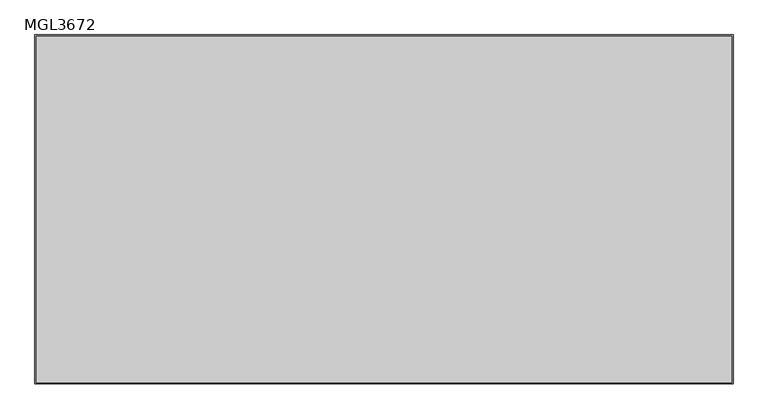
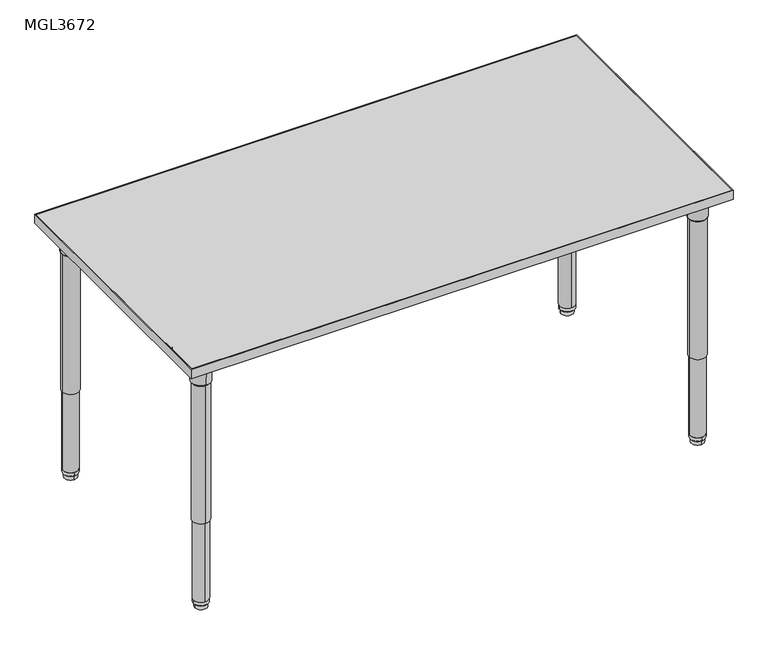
"""IFC4 building model written with IfcOpenShell, lengths in millimetres: furniture geometry, ERG-Mingle-Table-Rectangle : MGL3672."""

from ifc_helpers import new_model, si_unit, point, frame, frame_2d, origin, place, context, project, spatial, polyline, circle_curve, trimmed, segment, composite_curve, outline, extrude, source, transform, mapped, element, save
from ifc_brep_helpers import plane_surface, cylinder_surface, revolved_surface, advanced_brep


def mgl3672_5fbb54ad(model_context):
    return source(origin(), model_context, "Body", "SolidModel", [
        advanced_brep(
        [(808.1646842, -381.0, 802.9933069), (868.2353158, -381.0, 802.9933069), (838.2, -381.0, 802.9933069), (806.056117, -381.0, 806.7580481), (870.343883, -381.0, 806.7580481), (805.1206351, -381.0, 860.1631458), (871.2793649, -381.0, 860.1631458), (801.671083, -381.0, 866.5198315), (874.728917, -381.0, 866.5198315), (801.671083, -381.0, 879.2198315), (874.728917, -381.0, 879.2198315), (838.2, -381.0, 879.2198315)],
        [
            (0, 1, circle_curve(frame((838.2, -381.0, 802.9933069), z_axis=(0.0, 0.0, -1.0), x_axis=(1.0, 0.0, 0.0)), 30.0353158)),
            (1, 2),
            (2, 0),
            (1, 0, circle_curve(frame((838.2, -381.0, 802.9933069), z_axis=(0.0, 0.0, -1.0), x_axis=(1.0, 0.0, 0.0)), 30.0353158)),
            (3, 4, circle_curve(frame((838.2, -381.0, 806.7580481), z_axis=(0.0, 0.0, -1.0), x_axis=(1.0, 0.0, 0.0)), 32.143883)),
            (4, 1),
            (0, 3),
            (4, 3, circle_curve(frame((838.2, -381.0, 806.7580481), z_axis=(0.0, 0.0, -1.0), x_axis=(1.0, 0.0, 0.0)), 32.143883)),
            (5, 6, circle_curve(frame((838.2, -381.0, 860.1631458), z_axis=(0.0, 0.0, -1.0), x_axis=(1.0, 0.0, 0.0)), 33.0793649)),
            (6, 4),
            (3, 5),
            (6, 5, circle_curve(frame((838.2, -381.0, 860.1631458), z_axis=(0.0, 0.0, -1.0), x_axis=(1.0, 0.0, 0.0)), 33.0793649)),
            (7, 8, circle_curve(frame((838.2, -381.0, 866.5198315), z_axis=(0.0, 0.0, -1.0), x_axis=(1.0, 0.0, 0.0)), 36.528917)),
            (8, 6),
            (5, 7),
            (8, 7, circle_curve(frame((838.2, -381.0, 866.5198315), z_axis=(0.0, 0.0, -1.0), x_axis=(1.0, 0.0, 0.0)), 36.528917)),
            (9, 10, circle_curve(frame((838.2, -381.0, 879.2198315), z_axis=(0.0, 0.0, -1.0), x_axis=(1.0, 0.0, 0.0)), 36.528917)),
            (10, 8),
            (7, 9),
            (10, 9, circle_curve(frame((838.2, -381.0, 879.2198315), z_axis=(0.0, 0.0, -1.0), x_axis=(1.0, 0.0, 0.0)), 36.528917)),
            (11, 10),
            (9, 11),
        ],
        [
            plane_surface(frame((838.2, -381.0, 802.9933069), z_axis=(0.0, 0.0, -1.0), x_axis=(1.0, 0.0, 0.0))),
            revolved_surface(polyline([(868.2353158, -381.0, 802.9933069), (870.343883, -381.0, 806.7580481)]), (838.2, -381.0, 879.2198315), (0.0, 0.0, 1.0)),
            revolved_surface(polyline([(870.343883, -381.0, 806.7580481), (871.2793649, -381.0, 860.1631458)]), (838.2, -381.0, 879.2198315), (0.0, 0.0, 1.0)),
            revolved_surface(polyline([(871.2793649, -381.0, 860.1631458), (874.728917, -381.0, 866.5198315)]), (838.2, -381.0, 879.2198315), (0.0, 0.0, 1.0)),
            cylinder_surface(frame((838.2, -381.0, 879.2198315), z_axis=(0.0, 0.0, 1.0), x_axis=(1.0, 0.0, 0.0)), 36.528917),
            plane_surface(frame((838.2, -381.0, 879.2198315), z_axis=(0.0, 0.0, 1.0), x_axis=(1.0, 0.0, 0.0))),
        ],
        [
            (0, [[1, 2, 3]]),
            (0, [[4, -3, -2]]),
            (1, [[5, 6, -1, 7]]),
            (1, [[8, -7, -4, -6]]),
            (2, [[9, 10, -5, 11]]),
            (2, [[12, -11, -8, -10]]),
            (3, [[13, 14, -9, 15]]),
            (3, [[16, -15, -12, -14]]),
            (4, [[17, 18, -13, 19]]),
            (4, [[20, -19, -16, -18]]),
            (5, [[21, -17, 22]]),
            (5, [[-22, -20, -21]]),
        ],
    ),
        extrude(outline(composite_curve([segment(polyline([(884.073768, -298.4223426), (884.073768, -412.1483754)]), True, "CONTINUOUS"), segment(trimmed(circle_curve(frame_2d((868.198768, -412.1483754)), 15.875), [point((884.073768, -412.1483754))], [point((868.198768, -428.0233754))], False, "CARTESIAN"), True, "CONTINUOUS"), segment(polyline([(868.198768, -428.0233754), (754.4864205, -428.0233754)]), True, "CONTINUOUS"), segment(trimmed(circle_curve(frame_2d((754.4864205, -415.3233754)), 12.7), [point((754.4864205, -428.0233754))], [point((741.8491923, -414.0622394))], False, "CARTESIAN"), True, "CONTINUOUS"), segment(trimmed(circle_curve(frame_2d((884.3486077, -428.2830117)), 143.2072406), [point((741.8491923, -414.0622394))], [point((870.1111525, -285.7852622))], False, "CARTESIAN"), True, "CONTINUOUS"), segment(trimmed(circle_curve(frame_2d((871.373768, -298.4223426)), 12.7), [point((870.1111525, -285.7852622))], [point((884.073768, -298.4223426))], False, "CARTESIAN"), True, "CONTINUOUS")], self_intersect=False)), frame((0.0, 0.0, 879.2198315), z_axis=(0.0, 0.0, 1.0), x_axis=(1.0, 0.0, 0.0)), (0.0, 0.0, 1.0), 3.4301685),
        extrude(outline(composite_curve([segment(trimmed(circle_curve(frame_2d((838.2, -381.0)), 28.575), [point((866.775, -381.0))], [point((809.625, -381.0))], False, "CARTESIAN"), True, "CONTINUOUS"), segment(trimmed(circle_curve(frame_2d((838.2, -381.0)), 28.575), [point((809.625, -381.0))], [point((866.775, -381.0))], False, "CARTESIAN"), True, "CONTINUOUS")], self_intersect=False)), frame((0.0, 0.0, 310.7876979), z_axis=(0.0, 0.0, 1.0), x_axis=(1.0, 0.0, 0.0)), (0.0, 0.0, 1.0), 495.4089866),
        extrude(outline(composite_curve([segment(trimmed(circle_curve(frame_2d((838.2, -381.0)), 25.4), [point((863.6, -381.0))], [point((812.8, -381.0))], False, "CARTESIAN"), True, "CONTINUOUS"), segment(trimmed(circle_curve(frame_2d((838.2, -381.0)), 25.4), [point((812.8, -381.0))], [point((863.6, -381.0))], False, "CARTESIAN"), True, "CONTINUOUS")], self_intersect=False)), frame((0.0, 0.0, 28.9580435), z_axis=(0.0, 0.0, 1.0), x_axis=(1.0, 0.0, 0.0)), (0.0, 0.0, 1.0), 329.1049119),
        advanced_brep(
        [(838.2, -355.7649896, 28.9580185), (838.2, -406.2350104, 28.9580185), (838.2, -381.0, 28.9580185), (838.2, -355.900761, 16.3032949), (838.2, -406.099239, 16.3032949), (838.2, -357.4160619, 14.7291007), (838.2, -404.5839381, 14.7291007), (838.2, -359.8591422, 14.7291007), (838.2, -402.1408578, 14.7291007), (838.2, -360.0521336, 0.0), (838.2, -401.9478664, 0.0), (838.2, -381.0, 0.0)],
        [
            (0, 1, circle_curve(frame((838.2, -381.0, 28.9580185), z_axis=(0.0, 0.0, 1.0), x_axis=(0.0, -1.0, 0.0)), 25.2350104)),
            (1, 2),
            (2, 0),
            (1, 0, circle_curve(frame((838.2, -381.0, 28.9580185), z_axis=(0.0, 0.0, 1.0), x_axis=(0.0, -1.0, 0.0)), 25.2350104)),
            (3, 4, circle_curve(frame((838.2, -381.0, 16.3032949), z_axis=(0.0, 0.0, 1.0), x_axis=(0.0, -1.0, 0.0)), 25.099239)),
            (4, 1),
            (0, 3),
            (4, 3, circle_curve(frame((838.2, -381.0, 16.3032949), z_axis=(0.0, 0.0, 1.0), x_axis=(0.0, -1.0, 0.0)), 25.099239)),
            (5, 6, circle_curve(frame((838.2, -381.0, 14.7291007), z_axis=(0.0, 0.0, 1.0), x_axis=(0.0, -1.0, 0.0)), 23.5839381)),
            (6, 4),
            (3, 5),
            (6, 5, circle_curve(frame((838.2, -381.0, 14.7291007), z_axis=(0.0, 0.0, 1.0), x_axis=(0.0, -1.0, 0.0)), 23.5839381)),
            (7, 8, circle_curve(frame((838.2, -381.0, 14.7291007), z_axis=(0.0, 0.0, 1.0), x_axis=(0.0, -1.0, 0.0)), 21.1408578)),
            (8, 6),
            (5, 7),
            (8, 7, circle_curve(frame((838.2, -381.0, 14.7291007), z_axis=(0.0, 0.0, 1.0), x_axis=(0.0, -1.0, 0.0)), 21.1408578)),
            (9, 10, circle_curve(frame((838.2, -381.0, 0.0), z_axis=(0.0, 0.0, 1.0), x_axis=(0.0, -1.0, 0.0)), 20.9478664)),
            (10, 8),
            (7, 9),
            (10, 9, circle_curve(frame((838.2, -381.0, 0.0), z_axis=(0.0, 0.0, 1.0), x_axis=(0.0, -1.0, 0.0)), 20.9478664)),
            (11, 10),
            (9, 11),
        ],
        [
            plane_surface(frame((838.2, -381.0, 28.9580185), z_axis=(0.0, 0.0, 1.0), x_axis=(0.0, -1.0, 0.0))),
            revolved_surface(polyline([(838.2, -406.2350104, 28.9580185), (838.2, -406.099239, 16.3032949)]), (838.2, -381.0, 0.0), (0.0, 0.0, -1.0)),
            revolved_surface(polyline([(838.2, -406.099239, 16.3032949), (838.2, -404.5839381, 14.7291007)]), (838.2, -381.0, 0.0), (0.0, 0.0, -1.0)),
            plane_surface(frame((838.2, -381.0, 14.7291007), z_axis=(0.0, 0.0, -1.0), x_axis=(0.0, -1.0, 0.0))),
            revolved_surface(polyline([(838.2, -402.1408578, 14.7291007), (838.2, -401.9478664, 0.0)]), (838.2, -381.0, 0.0), (0.0, 0.0, -1.0)),
            plane_surface(frame((838.2, -381.0, 0.0), z_axis=(0.0, 0.0, -1.0), x_axis=(0.0, -1.0, 0.0))),
        ],
        [
            (0, [[1, 2, 3]]),
            (0, [[4, -3, -2]]),
            (1, [[5, 6, -1, 7]]),
            (1, [[8, -7, -4, -6]]),
            (2, [[9, 10, -5, 11]]),
            (2, [[12, -11, -8, -10]]),
            (3, [[13, 14, -9, 15]]),
            (3, [[16, -15, -12, -14]]),
            (4, [[17, 18, -13, 19]]),
            (4, [[20, -19, -16, -18]]),
            (5, [[21, -17, 22]]),
            (5, [[-22, -20, -21]]),
        ],
    ),
        advanced_brep(
        [(-838.2, -350.9646842, 802.9933069), (-838.2, -411.0353158, 802.9933069), (-838.2, -381.0, 802.9933069), (-838.2, -348.856117, 806.7580481), (-838.2, -413.143883, 806.7580481), (-838.2, -347.9206351, 860.1631458), (-838.2, -414.0793649, 860.1631458), (-838.2, -344.471083, 866.5198315), (-838.2, -417.528917, 866.5198315), (-838.2, -344.471083, 879.2198315), (-838.2, -417.528917, 879.2198315), (-838.2, -381.0, 879.2198315)],
        [
            (0, 1, circle_curve(frame((-838.2, -381.0, 802.9933069), z_axis=(0.0, 0.0, -1.0), x_axis=(0.0, -1.0, 0.0)), 30.0353158)),
            (1, 2),
            (2, 0),
            (1, 0, circle_curve(frame((-838.2, -381.0, 802.9933069), z_axis=(0.0, 0.0, -1.0), x_axis=(0.0, -1.0, 0.0)), 30.0353158)),
            (3, 4, circle_curve(frame((-838.2, -381.0, 806.7580481), z_axis=(0.0, 0.0, -1.0), x_axis=(0.0, -1.0, 0.0)), 32.143883)),
            (4, 1),
            (0, 3),
            (4, 3, circle_curve(frame((-838.2, -381.0, 806.7580481), z_axis=(0.0, 0.0, -1.0), x_axis=(0.0, -1.0, 0.0)), 32.143883)),
            (5, 6, circle_curve(frame((-838.2, -381.0, 860.1631458), z_axis=(0.0, 0.0, -1.0), x_axis=(0.0, -1.0, 0.0)), 33.0793649)),
            (6, 4),
            (3, 5),
            (6, 5, circle_curve(frame((-838.2, -381.0, 860.1631458), z_axis=(0.0, 0.0, -1.0), x_axis=(0.0, -1.0, 0.0)), 33.0793649)),
            (7, 8, circle_curve(frame((-838.2, -381.0, 866.5198315), z_axis=(0.0, 0.0, -1.0), x_axis=(0.0, -1.0, 0.0)), 36.528917)),
            (8, 6),
            (5, 7),
            (8, 7, circle_curve(frame((-838.2, -381.0, 866.5198315), z_axis=(0.0, 0.0, -1.0), x_axis=(0.0, -1.0, 0.0)), 36.528917)),
            (9, 10, circle_curve(frame((-838.2, -381.0, 879.2198315), z_axis=(0.0, 0.0, -1.0), x_axis=(0.0, -1.0, 0.0)), 36.528917)),
            (10, 8),
            (7, 9),
            (10, 9, circle_curve(frame((-838.2, -381.0, 879.2198315), z_axis=(0.0, 0.0, -1.0), x_axis=(0.0, -1.0, 0.0)), 36.528917)),
            (11, 10),
            (9, 11),
        ],
        [
            plane_surface(frame((-838.2, -381.0, 802.9933069), z_axis=(0.0, 0.0, -1.0), x_axis=(0.0, -1.0, 0.0))),
            revolved_surface(polyline([(-838.2, -411.0353158, 802.9933069), (-838.2, -413.143883, 806.7580481)]), (-838.2, -381.0, 879.2198315), (0.0, 0.0, 1.0)),
            revolved_surface(polyline([(-838.2, -413.143883, 806.7580481), (-838.2, -414.0793649, 860.1631458)]), (-838.2, -381.0, 879.2198315), (0.0, 0.0, 1.0)),
            revolved_surface(polyline([(-838.2, -414.0793649, 860.1631458), (-838.2, -417.528917, 866.5198315)]), (-838.2, -381.0, 879.2198315), (0.0, 0.0, 1.0)),
            cylinder_surface(frame((-838.2, -381.0, 879.2198315), z_axis=(0.0, 0.0, 1.0), x_axis=(0.0, -1.0, 0.0)), 36.528917),
            plane_surface(frame((-838.2, -381.0, 879.2198315), z_axis=(0.0, 0.0, 1.0), x_axis=(0.0, -1.0, 0.0))),
        ],
        [
            (0, [[1, 2, 3]]),
            (0, [[4, -3, -2]]),
            (1, [[5, 6, -1, 7]]),
            (1, [[8, -7, -4, -6]]),
            (2, [[9, 10, -5, 11]]),
            (2, [[12, -11, -8, -10]]),
            (3, [[13, 14, -9, 15]]),
            (3, [[16, -15, -12, -14]]),
            (4, [[17, 18, -13, 19]]),
            (4, [[20, -19, -16, -18]]),
            (5, [[21, -17, 22]]),
            (5, [[-22, -20, -21]]),
        ],
    ),
        extrude(outline(composite_curve([segment(polyline([(-755.6223426, -426.873768), (-869.3483754, -426.873768)]), True, "CONTINUOUS"), segment(trimmed(circle_curve(frame_2d((-869.3483754, -410.998768)), 15.875), [point((-869.3483754, -426.873768))], [point((-885.2233754, -410.998768))], False, "CARTESIAN"), True, "CONTINUOUS"), segment(polyline([(-885.2233754, -410.998768), (-885.2233754, -297.2864205)]), True, "CONTINUOUS"), segment(trimmed(circle_curve(frame_2d((-872.5233754, -297.2864205)), 12.7), [point((-885.2233754, -297.2864205))], [point((-871.2622394, -284.6491923))], False, "CARTESIAN"), True, "CONTINUOUS"), segment(trimmed(circle_curve(frame_2d((-885.4830117, -427.1486077)), 143.2072406), [point((-871.2622394, -284.6491923))], [point((-742.9852622, -412.9111525))], False, "CARTESIAN"), True, "CONTINUOUS"), segment(trimmed(circle_curve(frame_2d((-755.6223426, -414.173768)), 12.7), [point((-742.9852622, -412.9111525))], [point((-755.6223426, -426.873768))], False, "CARTESIAN"), True, "CONTINUOUS")], self_intersect=False)), frame((0.0, 0.0, 879.2198315), z_axis=(0.0, 0.0, 1.0), x_axis=(1.0, 0.0, 0.0)), (0.0, 0.0, 1.0), 3.4301685),
        extrude(outline(composite_curve([segment(trimmed(circle_curve(frame_2d((-838.2, -381.0)), 28.575), [point((-838.2, -409.575))], [point((-838.2, -352.425))], False, "CARTESIAN"), True, "CONTINUOUS"), segment(trimmed(circle_curve(frame_2d((-838.2, -381.0)), 28.575), [point((-838.2, -352.425))], [point((-838.2, -409.575))], False, "CARTESIAN"), True, "CONTINUOUS")], self_intersect=False)), frame((0.0, 0.0, 310.7876979), z_axis=(0.0, 0.0, 1.0), x_axis=(1.0, 0.0, 0.0)), (0.0, 0.0, 1.0), 495.4089866),
        extrude(outline(composite_curve([segment(trimmed(circle_curve(frame_2d((-838.2, -381.0)), 25.4), [point((-838.2, -406.4))], [point((-838.2, -355.6))], False, "CARTESIAN"), True, "CONTINUOUS"), segment(trimmed(circle_curve(frame_2d((-838.2, -381.0)), 25.4), [point((-838.2, -355.6))], [point((-838.2, -406.4))], False, "CARTESIAN"), True, "CONTINUOUS")], self_intersect=False)), frame((0.0, 0.0, 28.9580435), z_axis=(0.0, 0.0, 1.0), x_axis=(1.0, 0.0, 0.0)), (0.0, 0.0, 1.0), 329.1049119),
        advanced_brep(
        [(-812.9649896, -381.0, 28.9580185), (-863.4350104, -381.0, 28.9580185), (-838.2, -381.0, 28.9580185), (-813.100761, -381.0, 16.3032949), (-863.299239, -381.0, 16.3032949), (-814.6160619, -381.0, 14.7291007), (-861.7839381, -381.0, 14.7291007), (-817.0591422, -381.0, 14.7291007), (-859.3408578, -381.0, 14.7291007), (-817.2521336, -381.0, 0.0), (-859.1478664, -381.0, 0.0), (-838.2, -381.0, 0.0)],
        [
            (0, 1, circle_curve(frame((-838.2, -381.0, 28.9580185), z_axis=(0.0, 0.0, 1.0), x_axis=(-1.0, 0.0, 0.0)), 25.2350104)),
            (1, 2),
            (2, 0),
            (1, 0, circle_curve(frame((-838.2, -381.0, 28.9580185), z_axis=(0.0, 0.0, 1.0), x_axis=(-1.0, 0.0, 0.0)), 25.2350104)),
            (3, 4, circle_curve(frame((-838.2, -381.0, 16.3032949), z_axis=(0.0, 0.0, 1.0), x_axis=(-1.0, 0.0, 0.0)), 25.099239)),
            (4, 1),
            (0, 3),
            (4, 3, circle_curve(frame((-838.2, -381.0, 16.3032949), z_axis=(0.0, 0.0, 1.0), x_axis=(-1.0, 0.0, 0.0)), 25.099239)),
            (5, 6, circle_curve(frame((-838.2, -381.0, 14.7291007), z_axis=(0.0, 0.0, 1.0), x_axis=(-1.0, 0.0, 0.0)), 23.5839381)),
            (6, 4),
            (3, 5),
            (6, 5, circle_curve(frame((-838.2, -381.0, 14.7291007), z_axis=(0.0, 0.0, 1.0), x_axis=(-1.0, 0.0, 0.0)), 23.5839381)),
            (7, 8, circle_curve(frame((-838.2, -381.0, 14.7291007), z_axis=(0.0, 0.0, 1.0), x_axis=(-1.0, 0.0, 0.0)), 21.1408578)),
            (8, 6),
            (5, 7),
            (8, 7, circle_curve(frame((-838.2, -381.0, 14.7291007), z_axis=(0.0, 0.0, 1.0), x_axis=(-1.0, 0.0, 0.0)), 21.1408578)),
            (9, 10, circle_curve(frame((-838.2, -381.0, 0.0), z_axis=(0.0, 0.0, 1.0), x_axis=(-1.0, 0.0, 0.0)), 20.9478664)),
            (10, 8),
            (7, 9),
            (10, 9, circle_curve(frame((-838.2, -381.0, 0.0), z_axis=(0.0, 0.0, 1.0), x_axis=(-1.0, 0.0, 0.0)), 20.9478664)),
            (11, 10),
            (9, 11),
        ],
        [
            plane_surface(frame((-838.2, -381.0, 28.9580185), z_axis=(0.0, 0.0, 1.0), x_axis=(-1.0, 0.0, 0.0))),
            revolved_surface(polyline([(-863.4350104, -381.0, 28.9580185), (-863.299239, -381.0, 16.3032949)]), (-838.2, -381.0, 0.0), (0.0, 0.0, -1.0)),
            revolved_surface(polyline([(-863.299239, -381.0, 16.3032949), (-861.7839381, -381.0, 14.7291007)]), (-838.2, -381.0, 0.0), (0.0, 0.0, -1.0)),
            plane_surface(frame((-838.2, -381.0, 14.7291007), z_axis=(0.0, 0.0, -1.0), x_axis=(-1.0, 0.0, 0.0))),
            revolved_surface(polyline([(-859.3408578, -381.0, 14.7291007), (-859.1478664, -381.0, 0.0)]), (-838.2, -381.0, 0.0), (0.0, 0.0, -1.0)),
            plane_surface(frame((-838.2, -381.0, 0.0), z_axis=(0.0, 0.0, -1.0), x_axis=(-1.0, 0.0, 0.0))),
        ],
        [
            (0, [[1, 2, 3]]),
            (0, [[4, -3, -2]]),
            (1, [[5, 6, -1, 7]]),
            (1, [[8, -7, -4, -6]]),
            (2, [[9, 10, -5, 11]]),
            (2, [[12, -11, -8, -10]]),
            (3, [[13, 14, -9, 15]]),
            (3, [[16, -15, -12, -14]]),
            (4, [[17, 18, -13, 19]]),
            (4, [[20, -19, -16, -18]]),
            (5, [[21, -17, 22]]),
            (5, [[-22, -20, -21]]),
        ],
    ),
        advanced_brep(
        [(838.2, 350.9646842, 802.9933069), (838.2, 411.0353158, 802.9933069), (838.2, 381.0, 802.9933069), (838.2, 348.856117, 806.7580481), (838.2, 413.143883, 806.7580481), (838.2, 347.9206351, 860.1631458), (838.2, 414.0793649, 860.1631458), (838.2, 344.471083, 866.5198315), (838.2, 417.528917, 866.5198315), (838.2, 344.471083, 879.2198315), (838.2, 417.528917, 879.2198315), (838.2, 381.0, 879.2198315)],
        [
            (0, 1, circle_curve(frame((838.2, 381.0, 802.9933069), z_axis=(0.0, 0.0, -1.0), x_axis=(0.0, 1.0, 0.0)), 30.0353158)),
            (1, 2),
            (2, 0),
            (1, 0, circle_curve(frame((838.2, 381.0, 802.9933069), z_axis=(0.0, 0.0, -1.0), x_axis=(0.0, 1.0, 0.0)), 30.0353158)),
            (3, 4, circle_curve(frame((838.2, 381.0, 806.7580481), z_axis=(0.0, 0.0, -1.0), x_axis=(0.0, 1.0, 0.0)), 32.143883)),
            (4, 1),
            (0, 3),
            (4, 3, circle_curve(frame((838.2, 381.0, 806.7580481), z_axis=(0.0, 0.0, -1.0), x_axis=(0.0, 1.0, 0.0)), 32.143883)),
            (5, 6, circle_curve(frame((838.2, 381.0, 860.1631458), z_axis=(0.0, 0.0, -1.0), x_axis=(0.0, 1.0, 0.0)), 33.0793649)),
            (6, 4),
            (3, 5),
            (6, 5, circle_curve(frame((838.2, 381.0, 860.1631458), z_axis=(0.0, 0.0, -1.0), x_axis=(0.0, 1.0, 0.0)), 33.0793649)),
            (7, 8, circle_curve(frame((838.2, 381.0, 866.5198315), z_axis=(0.0, 0.0, -1.0), x_axis=(0.0, 1.0, 0.0)), 36.528917)),
            (8, 6),
            (5, 7),
            (8, 7, circle_curve(frame((838.2, 381.0, 866.5198315), z_axis=(0.0, 0.0, -1.0), x_axis=(0.0, 1.0, 0.0)), 36.528917)),
            (9, 10, circle_curve(frame((838.2, 381.0, 879.2198315), z_axis=(0.0, 0.0, -1.0), x_axis=(0.0, 1.0, 0.0)), 36.528917)),
            (10, 8),
            (7, 9),
            (10, 9, circle_curve(frame((838.2, 381.0, 879.2198315), z_axis=(0.0, 0.0, -1.0), x_axis=(0.0, 1.0, 0.0)), 36.528917)),
            (11, 10),
            (9, 11),
        ],
        [
            plane_surface(frame((838.2, 381.0, 802.9933069), z_axis=(0.0, 0.0, -1.0), x_axis=(0.0, 1.0, 0.0))),
            revolved_surface(polyline([(838.2, 411.0353158, 802.9933069), (838.2, 413.143883, 806.7580481)]), (838.2, 381.0, 879.2198315), (0.0, 0.0, 1.0)),
            revolved_surface(polyline([(838.2, 413.143883, 806.7580481), (838.2, 414.0793649, 860.1631458)]), (838.2, 381.0, 879.2198315), (0.0, 0.0, 1.0)),
            revolved_surface(polyline([(838.2, 414.0793649, 860.1631458), (838.2, 417.528917, 866.5198315)]), (838.2, 381.0, 879.2198315), (0.0, 0.0, 1.0)),
            cylinder_surface(frame((838.2, 381.0, 879.2198315), z_axis=(0.0, 0.0, 1.0), x_axis=(0.0, 1.0, 0.0)), 36.528917),
            plane_surface(frame((838.2, 381.0, 879.2198315), z_axis=(0.0, 0.0, 1.0), x_axis=(0.0, 1.0, 0.0))),
        ],
        [
            (0, [[1, 2, 3]]),
            (0, [[4, -3, -2]]),
            (1, [[5, 6, -1, 7]]),
            (1, [[8, -7, -4, -6]]),
            (2, [[9, 10, -5, 11]]),
            (2, [[12, -11, -8, -10]]),
            (3, [[13, 14, -9, 15]]),
            (3, [[16, -15, -12, -14]]),
            (4, [[17, 18, -13, 19]]),
            (4, [[20, -19, -16, -18]]),
            (5, [[21, -17, 22]]),
            (5, [[-22, -20, -21]]),
        ],
    ),
        extrude(outline(composite_curve([segment(polyline([(755.6223426, 426.873768), (869.3483754, 426.873768)]), True, "CONTINUOUS"), segment(trimmed(circle_curve(frame_2d((869.3483754, 410.998768)), 15.875), [point((869.3483754, 426.873768))], [point((885.2233754, 410.998768))], False, "CARTESIAN"), True, "CONTINUOUS"), segment(polyline([(885.2233754, 410.998768), (885.2233754, 297.2864205)]), True, "CONTINUOUS"), segment(trimmed(circle_curve(frame_2d((872.5233754, 297.2864205)), 12.7), [point((885.2233754, 297.2864205))], [point((871.2622394, 284.6491923))], False, "CARTESIAN"), True, "CONTINUOUS"), segment(trimmed(circle_curve(frame_2d((885.4830117, 427.1486077)), 143.2072406), [point((871.2622394, 284.6491923))], [point((742.9852622, 412.9111525))], False, "CARTESIAN"), True, "CONTINUOUS"), segment(trimmed(circle_curve(frame_2d((755.6223426, 414.173768)), 12.7), [point((742.9852622, 412.9111525))], [point((755.6223426, 426.873768))], False, "CARTESIAN"), True, "CONTINUOUS")], self_intersect=False)), frame((0.0, 0.0, 879.2198315), z_axis=(0.0, 0.0, 1.0), x_axis=(1.0, 0.0, 0.0)), (0.0, 0.0, 1.0), 3.4301685),
        extrude(outline(composite_curve([segment(trimmed(circle_curve(frame_2d((838.2, 381.0)), 28.575), [point((838.2, 409.575))], [point((838.2, 352.425))], False, "CARTESIAN"), True, "CONTINUOUS"), segment(trimmed(circle_curve(frame_2d((838.2, 381.0)), 28.575), [point((838.2, 352.425))], [point((838.2, 409.575))], False, "CARTESIAN"), True, "CONTINUOUS")], self_intersect=False)), frame((0.0, 0.0, 310.7876979), z_axis=(0.0, 0.0, 1.0), x_axis=(1.0, 0.0, 0.0)), (0.0, 0.0, 1.0), 495.4089866),
        extrude(outline(composite_curve([segment(trimmed(circle_curve(frame_2d((838.2, 381.0)), 25.4), [point((838.2, 406.4))], [point((838.2, 355.6))], False, "CARTESIAN"), True, "CONTINUOUS"), segment(trimmed(circle_curve(frame_2d((838.2, 381.0)), 25.4), [point((838.2, 355.6))], [point((838.2, 406.4))], False, "CARTESIAN"), True, "CONTINUOUS")], self_intersect=False)), frame((0.0, 0.0, 28.9580435), z_axis=(0.0, 0.0, 1.0), x_axis=(1.0, 0.0, 0.0)), (0.0, 0.0, 1.0), 329.1049119),
        advanced_brep(
        [(812.9649896, 381.0, 28.9580185), (863.4350104, 381.0, 28.9580185), (838.2, 381.0, 28.9580185), (813.100761, 381.0, 16.3032949), (863.299239, 381.0, 16.3032949), (814.6160619, 381.0, 14.7291007), (861.7839381, 381.0, 14.7291007), (817.0591422, 381.0, 14.7291007), (859.3408578, 381.0, 14.7291007), (817.2521336, 381.0, 0.0), (859.1478664, 381.0, 0.0), (838.2, 381.0, 0.0)],
        [
            (0, 1, circle_curve(frame((838.2, 381.0, 28.9580185), z_axis=(0.0, 0.0, 1.0), x_axis=(1.0, 0.0, 0.0)), 25.2350104)),
            (1, 2),
            (2, 0),
            (1, 0, circle_curve(frame((838.2, 381.0, 28.9580185), z_axis=(0.0, 0.0, 1.0), x_axis=(1.0, 0.0, 0.0)), 25.2350104)),
            (3, 4, circle_curve(frame((838.2, 381.0, 16.3032949), z_axis=(0.0, 0.0, 1.0), x_axis=(1.0, 0.0, 0.0)), 25.099239)),
            (4, 1),
            (0, 3),
            (4, 3, circle_curve(frame((838.2, 381.0, 16.3032949), z_axis=(0.0, 0.0, 1.0), x_axis=(1.0, 0.0, 0.0)), 25.099239)),
            (5, 6, circle_curve(frame((838.2, 381.0, 14.7291007), z_axis=(0.0, 0.0, 1.0), x_axis=(1.0, 0.0, 0.0)), 23.5839381)),
            (6, 4),
            (3, 5),
            (6, 5, circle_curve(frame((838.2, 381.0, 14.7291007), z_axis=(0.0, 0.0, 1.0), x_axis=(1.0, 0.0, 0.0)), 23.5839381)),
            (7, 8, circle_curve(frame((838.2, 381.0, 14.7291007), z_axis=(0.0, 0.0, 1.0), x_axis=(1.0, 0.0, 0.0)), 21.1408578)),
            (8, 6),
            (5, 7),
            (8, 7, circle_curve(frame((838.2, 381.0, 14.7291007), z_axis=(0.0, 0.0, 1.0), x_axis=(1.0, 0.0, 0.0)), 21.1408578)),
            (9, 10, circle_curve(frame((838.2, 381.0, 0.0), z_axis=(0.0, 0.0, 1.0), x_axis=(1.0, 0.0, 0.0)), 20.9478664)),
            (10, 8),
            (7, 9),
            (10, 9, circle_curve(frame((838.2, 381.0, 0.0), z_axis=(0.0, 0.0, 1.0), x_axis=(1.0, 0.0, 0.0)), 20.9478664)),
            (11, 10),
            (9, 11),
        ],
        [
            plane_surface(frame((838.2, 381.0, 28.9580185), z_axis=(0.0, 0.0, 1.0), x_axis=(1.0, 0.0, 0.0))),
            revolved_surface(polyline([(863.4350104, 381.0, 28.9580185), (863.299239, 381.0, 16.3032949)]), (838.2, 381.0, 0.0), (0.0, 0.0, -1.0)),
            revolved_surface(polyline([(863.299239, 381.0, 16.3032949), (861.7839381, 381.0, 14.7291007)]), (838.2, 381.0, 0.0), (0.0, 0.0, -1.0)),
            plane_surface(frame((838.2, 381.0, 14.7291007), z_axis=(0.0, 0.0, -1.0), x_axis=(1.0, 0.0, 0.0))),
            revolved_surface(polyline([(859.3408578, 381.0, 14.7291007), (859.1478664, 381.0, 0.0)]), (838.2, 381.0, 0.0), (0.0, 0.0, -1.0)),
            plane_surface(frame((838.2, 381.0, 0.0), z_axis=(0.0, 0.0, -1.0), x_axis=(1.0, 0.0, 0.0))),
        ],
        [
            (0, [[1, 2, 3]]),
            (0, [[4, -3, -2]]),
            (1, [[5, 6, -1, 7]]),
            (1, [[8, -7, -4, -6]]),
            (2, [[9, 10, -5, 11]]),
            (2, [[12, -11, -8, -10]]),
            (3, [[13, 14, -9, 15]]),
            (3, [[16, -15, -12, -14]]),
            (4, [[17, 18, -13, 19]]),
            (4, [[20, -19, -16, -18]]),
            (5, [[21, -17, 22]]),
            (5, [[-22, -20, -21]]),
        ],
    ),
        advanced_brep(
        [(-808.1646842, 381.0, 802.9933069), (-868.2353158, 381.0, 802.9933069), (-838.2, 381.0, 802.9933069), (-806.056117, 381.0, 806.7580481), (-870.343883, 381.0, 806.7580481), (-805.1206351, 381.0, 860.1631458), (-871.2793649, 381.0, 860.1631458), (-801.671083, 381.0, 866.5198315), (-874.728917, 381.0, 866.5198315), (-801.671083, 381.0, 879.2198315), (-874.728917, 381.0, 879.2198315), (-838.2, 381.0, 879.2198315)],
        [
            (0, 1, circle_curve(frame((-838.2, 381.0, 802.9933069), z_axis=(0.0, 0.0, -1.0), x_axis=(-1.0, 0.0, 0.0)), 30.0353158)),
            (1, 2),
            (2, 0),
            (1, 0, circle_curve(frame((-838.2, 381.0, 802.9933069), z_axis=(0.0, 0.0, -1.0), x_axis=(-1.0, 0.0, 0.0)), 30.0353158)),
            (3, 4, circle_curve(frame((-838.2, 381.0, 806.7580481), z_axis=(0.0, 0.0, -1.0), x_axis=(-1.0, 0.0, 0.0)), 32.143883)),
            (4, 1),
            (0, 3),
            (4, 3, circle_curve(frame((-838.2, 381.0, 806.7580481), z_axis=(0.0, 0.0, -1.0), x_axis=(-1.0, 0.0, 0.0)), 32.143883)),
            (5, 6, circle_curve(frame((-838.2, 381.0, 860.1631458), z_axis=(0.0, 0.0, -1.0), x_axis=(-1.0, 0.0, 0.0)), 33.0793649)),
            (6, 4),
            (3, 5),
            (6, 5, circle_curve(frame((-838.2, 381.0, 860.1631458), z_axis=(0.0, 0.0, -1.0), x_axis=(-1.0, 0.0, 0.0)), 33.0793649)),
            (7, 8, circle_curve(frame((-838.2, 381.0, 866.5198315), z_axis=(0.0, 0.0, -1.0), x_axis=(-1.0, 0.0, 0.0)), 36.528917)),
            (8, 6),
            (5, 7),
            (8, 7, circle_curve(frame((-838.2, 381.0, 866.5198315), z_axis=(0.0, 0.0, -1.0), x_axis=(-1.0, 0.0, 0.0)), 36.528917)),
            (9, 10, circle_curve(frame((-838.2, 381.0, 879.2198315), z_axis=(0.0, 0.0, -1.0), x_axis=(-1.0, 0.0, 0.0)), 36.528917)),
            (10, 8),
            (7, 9),
            (10, 9, circle_curve(frame((-838.2, 381.0, 879.2198315), z_axis=(0.0, 0.0, -1.0), x_axis=(-1.0, 0.0, 0.0)), 36.528917)),
            (11, 10),
            (9, 11),
        ],
        [
            plane_surface(frame((-838.2, 381.0, 802.9933069), z_axis=(0.0, 0.0, -1.0), x_axis=(-1.0, 0.0, 0.0))),
            revolved_surface(polyline([(-868.2353158, 381.0, 802.9933069), (-870.343883, 381.0, 806.7580481)]), (-838.2, 381.0, 879.2198315), (0.0, 0.0, 1.0)),
            revolved_surface(polyline([(-870.343883, 381.0, 806.7580481), (-871.2793649, 381.0, 860.1631458)]), (-838.2, 381.0, 879.2198315), (0.0, 0.0, 1.0)),
            revolved_surface(polyline([(-871.2793649, 381.0, 860.1631458), (-874.728917, 381.0, 866.5198315)]), (-838.2, 381.0, 879.2198315), (0.0, 0.0, 1.0)),
            cylinder_surface(frame((-838.2, 381.0, 879.2198315), z_axis=(0.0, 0.0, 1.0), x_axis=(-1.0, 0.0, 0.0)), 36.528917),
            plane_surface(frame((-838.2, 381.0, 879.2198315), z_axis=(0.0, 0.0, 1.0), x_axis=(-1.0, 0.0, 0.0))),
        ],
        [
            (0, [[1, 2, 3]]),
            (0, [[4, -3, -2]]),
            (1, [[5, 6, -1, 7]]),
            (1, [[8, -7, -4, -6]]),
            (2, [[9, 10, -5, 11]]),
            (2, [[12, -11, -8, -10]]),
            (3, [[13, 14, -9, 15]]),
            (3, [[16, -15, -12, -14]]),
            (4, [[17, 18, -13, 19]]),
            (4, [[20, -19, -16, -18]]),
            (5, [[21, -17, 22]]),
            (5, [[-22, -20, -21]]),
        ],
    ),
        extrude(outline(composite_curve([segment(polyline([(-884.073768, 298.4223426), (-884.073768, 412.1483754)]), True, "CONTINUOUS"), segment(trimmed(circle_curve(frame_2d((-868.198768, 412.1483754)), 15.875), [point((-884.073768, 412.1483754))], [point((-868.198768, 428.0233754))], False, "CARTESIAN"), True, "CONTINUOUS"), segment(polyline([(-868.198768, 428.0233754), (-754.4864205, 428.0233754)]), True, "CONTINUOUS"), segment(trimmed(circle_curve(frame_2d((-754.4864205, 415.3233754)), 12.7), [point((-754.4864205, 428.0233754))], [point((-741.8491923, 414.0622394))], False, "CARTESIAN"), True, "CONTINUOUS"), segment(trimmed(circle_curve(frame_2d((-884.3486077, 428.2830117)), 143.2072406), [point((-741.8491923, 414.0622394))], [point((-870.1111525, 285.7852622))], False, "CARTESIAN"), True, "CONTINUOUS"), segment(trimmed(circle_curve(frame_2d((-871.373768, 298.4223426)), 12.7), [point((-870.1111525, 285.7852622))], [point((-884.073768, 298.4223426))], False, "CARTESIAN"), True, "CONTINUOUS")], self_intersect=False)), frame((0.0, 0.0, 879.2198315), z_axis=(0.0, 0.0, 1.0), x_axis=(1.0, 0.0, 0.0)), (0.0, 0.0, 1.0), 3.4301685),
        extrude(outline(composite_curve([segment(trimmed(circle_curve(frame_2d((-838.2, 381.0)), 28.575), [point((-866.775, 381.0))], [point((-809.625, 381.0))], False, "CARTESIAN"), True, "CONTINUOUS"), segment(trimmed(circle_curve(frame_2d((-838.2, 381.0)), 28.575), [point((-809.625, 381.0))], [point((-866.775, 381.0))], False, "CARTESIAN"), True, "CONTINUOUS")], self_intersect=False)), frame((0.0, 0.0, 310.7876979), z_axis=(0.0, 0.0, 1.0), x_axis=(1.0, 0.0, 0.0)), (0.0, 0.0, 1.0), 495.4089866),
        extrude(outline(composite_curve([segment(trimmed(circle_curve(frame_2d((-838.2, 381.0)), 25.4), [point((-863.6, 381.0))], [point((-812.8, 381.0))], False, "CARTESIAN"), True, "CONTINUOUS"), segment(trimmed(circle_curve(frame_2d((-838.2, 381.0)), 25.4), [point((-812.8, 381.0))], [point((-863.6, 381.0))], False, "CARTESIAN"), True, "CONTINUOUS")], self_intersect=False)), frame((0.0, 0.0, 28.9580435), z_axis=(0.0, 0.0, 1.0), x_axis=(1.0, 0.0, 0.0)), (0.0, 0.0, 1.0), 329.1049119),
        advanced_brep(
        [(-838.2, 355.7649896, 28.9580185), (-838.2, 406.2350104, 28.9580185), (-838.2, 381.0, 28.9580185), (-838.2, 355.900761, 16.3032949), (-838.2, 406.099239, 16.3032949), (-838.2, 357.4160619, 14.7291007), (-838.2, 404.5839381, 14.7291007), (-838.2, 359.8591422, 14.7291007), (-838.2, 402.1408578, 14.7291007), (-838.2, 360.0521336, 0.0), (-838.2, 401.9478664, 0.0), (-838.2, 381.0, 0.0)],
        [
            (0, 1, circle_curve(frame((-838.2, 381.0, 28.9580185), z_axis=(0.0, 0.0, 1.0), x_axis=(0.0, 1.0, 0.0)), 25.2350104)),
            (1, 2),
            (2, 0),
            (1, 0, circle_curve(frame((-838.2, 381.0, 28.9580185), z_axis=(0.0, 0.0, 1.0), x_axis=(0.0, 1.0, 0.0)), 25.2350104)),
            (3, 4, circle_curve(frame((-838.2, 381.0, 16.3032949), z_axis=(0.0, 0.0, 1.0), x_axis=(0.0, 1.0, 0.0)), 25.099239)),
            (4, 1),
            (0, 3),
            (4, 3, circle_curve(frame((-838.2, 381.0, 16.3032949), z_axis=(0.0, 0.0, 1.0), x_axis=(0.0, 1.0, 0.0)), 25.099239)),
            (5, 6, circle_curve(frame((-838.2, 381.0, 14.7291007), z_axis=(0.0, 0.0, 1.0), x_axis=(0.0, 1.0, 0.0)), 23.5839381)),
            (6, 4),
            (3, 5),
            (6, 5, circle_curve(frame((-838.2, 381.0, 14.7291007), z_axis=(0.0, 0.0, 1.0), x_axis=(0.0, 1.0, 0.0)), 23.5839381)),
            (7, 8, circle_curve(frame((-838.2, 381.0, 14.7291007), z_axis=(0.0, 0.0, 1.0), x_axis=(0.0, 1.0, 0.0)), 21.1408578)),
            (8, 6),
            (5, 7),
            (8, 7, circle_curve(frame((-838.2, 381.0, 14.7291007), z_axis=(0.0, 0.0, 1.0), x_axis=(0.0, 1.0, 0.0)), 21.1408578)),
            (9, 10, circle_curve(frame((-838.2, 381.0, 0.0), z_axis=(0.0, 0.0, 1.0), x_axis=(0.0, 1.0, 0.0)), 20.9478664)),
            (10, 8),
            (7, 9),
            (10, 9, circle_curve(frame((-838.2, 381.0, 0.0), z_axis=(0.0, 0.0, 1.0), x_axis=(0.0, 1.0, 0.0)), 20.9478664)),
            (11, 10),
            (9, 11),
        ],
        [
            plane_surface(frame((-838.2, 381.0, 28.9580185), z_axis=(0.0, 0.0, 1.0), x_axis=(0.0, 1.0, 0.0))),
            revolved_surface(polyline([(-838.2, 406.2350104, 28.9580185), (-838.2, 406.099239, 16.3032949)]), (-838.2, 381.0, 0.0), (0.0, 0.0, -1.0)),
            revolved_surface(polyline([(-838.2, 406.099239, 16.3032949), (-838.2, 404.5839381, 14.7291007)]), (-838.2, 381.0, 0.0), (0.0, 0.0, -1.0)),
            plane_surface(frame((-838.2, 381.0, 14.7291007), z_axis=(0.0, 0.0, -1.0), x_axis=(0.0, 1.0, 0.0))),
            revolved_surface(polyline([(-838.2, 402.1408578, 14.7291007), (-838.2, 401.9478664, 0.0)]), (-838.2, 381.0, 0.0), (0.0, 0.0, -1.0)),
            plane_surface(frame((-838.2, 381.0, 0.0), z_axis=(0.0, 0.0, -1.0), x_axis=(0.0, 1.0, 0.0))),
        ],
        [
            (0, [[1, 2, 3]]),
            (0, [[4, -3, -2]]),
            (1, [[5, 6, -1, 7]]),
            (1, [[8, -7, -4, -6]]),
            (2, [[9, 10, -5, 11]]),
            (2, [[12, -11, -8, -10]]),
            (3, [[13, 14, -9, 15]]),
            (3, [[16, -15, -12, -14]]),
            (4, [[17, 18, -13, 19]]),
            (4, [[20, -19, -16, -18]]),
            (5, [[21, -17, 22]]),
            (5, [[-22, -20, -21]]),
        ],
    ),
        extrude(outline(polyline([(-911.225, 454.025), (911.225, 454.025), (911.225, -454.025), (-911.225, -454.025), (-911.225, 454.025)])), frame((0.0, 0.0, 882.65), z_axis=(0.0, 0.0, 1.0), x_axis=(1.0, 0.0, 0.0)), (0.0, 0.0, 1.0), 31.75),
        extrude(outline(polyline([(914.4, -457.2), (-914.4, -457.2), (-914.4, 457.2), (914.4, 457.2), (914.4, -457.2)]), holes=[polyline([(911.225, 454.025), (-911.225, 454.025), (-911.225, -454.025), (911.225, -454.025), (911.225, 454.025)])]), frame((0.0, 0.0, 882.65), z_axis=(0.0, 0.0, 1.0), x_axis=(1.0, 0.0, 0.0)), (0.0, 0.0, 1.0), 31.75),
    ])


if __name__ == "__main__":
    model = new_model("IFC4")
    model_context = context("Model", 3, world=origin())
    ifc_project = project(units=[si_unit("LENGTHUNIT", "METRE", prefix="MILLI")], contexts=[model_context])
    site = spatial("IfcSite", under=ifc_project)
    building = spatial("IfcBuilding", under=site)
    placement = place(None, origin())
    mgl3672_shape = mgl3672_5fbb54ad(model_context)
    element("IfcFurniture", 1, ObjectType="ERG-Mingle-Table-Rectangle : MGL3672", at=placement, inside=building, context=model_context, shape_type="MappedRepresentation", body=[
        mapped(mgl3672_shape, transform((0.0, 0.0, 0.0), x_axis=(1.0, 0.0, 0.0), y_axis=(0.0, 1.0, 0.0), z_axis=(0.0, 0.0, 1.0))),
    ])
    save(model, "model.ifc")
